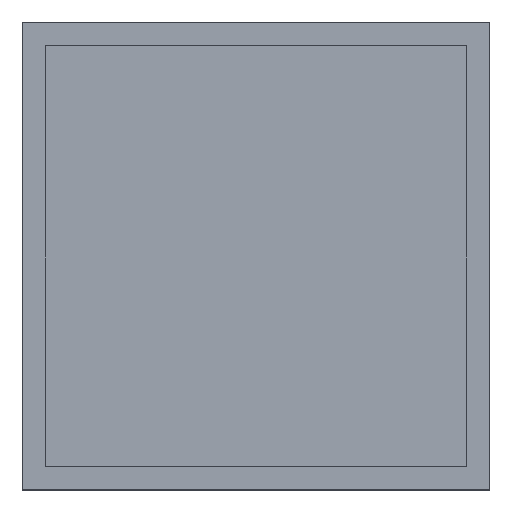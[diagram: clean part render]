
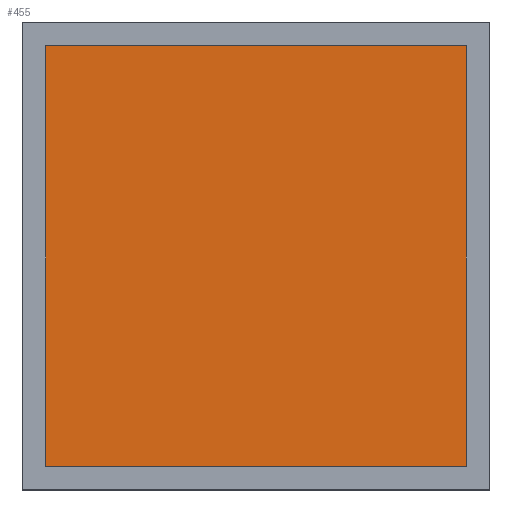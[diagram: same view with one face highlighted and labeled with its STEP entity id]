
A CAD part, top view. The second image highlights one B-rep face of the part: STEP entity #455.
In plain terms, the highlighted planar face has unit normal (0, 0, 1).
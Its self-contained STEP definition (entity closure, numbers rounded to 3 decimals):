
#33=FACE_OUTER_BOUND('',#61,.T.);
#61=EDGE_LOOP('',(#348,#349,#350,#351));
#110=LINE('',#710,#170);
#111=LINE('',#712,#171);
#112=LINE('',#714,#172);
#113=LINE('',#715,#173);
#170=VECTOR('',#587,10.);
#171=VECTOR('',#588,10.);
#172=VECTOR('',#589,10.);
#173=VECTOR('',#590,10.);
#216=VERTEX_POINT('',#708);
#217=VERTEX_POINT('',#709);
#218=VERTEX_POINT('',#711);
#219=VERTEX_POINT('',#713);
#266=EDGE_CURVE('',#216,#217,#110,.T.);
#267=EDGE_CURVE('',#218,#216,#111,.T.);
#268=EDGE_CURVE('',#219,#218,#112,.T.);
#269=EDGE_CURVE('',#217,#219,#113,.T.);
#348=ORIENTED_EDGE('',*,*,#266,.F.);
#349=ORIENTED_EDGE('',*,*,#267,.F.);
#350=ORIENTED_EDGE('',*,*,#268,.F.);
#351=ORIENTED_EDGE('',*,*,#269,.F.);
#427=PLANE('',#506);
#455=ADVANCED_FACE('',(#33),#427,.F.);
#506=AXIS2_PLACEMENT_3D('',#707,#585,#586);
#585=DIRECTION('center_axis',(0.,0.,-1.));
#586=DIRECTION('ref_axis',(-1.,0.,0.));
#587=DIRECTION('',(1.,0.,0.));
#588=DIRECTION('',(0.,1.,0.));
#589=DIRECTION('',(-1.,0.,0.));
#590=DIRECTION('',(0.,-1.,0.));
#707=CARTESIAN_POINT('Origin',(0.,0.,
0.));
#708=CARTESIAN_POINT('',(-267.5,267.5,0.));
#709=CARTESIAN_POINT('',(267.5,267.5,0.));
#710=CARTESIAN_POINT('',(-267.5,267.5,0.));
#711=CARTESIAN_POINT('',(-267.5,-267.5,0.));
#712=CARTESIAN_POINT('',(-267.5,-267.5,0.));
#713=CARTESIAN_POINT('',(267.5,-267.5,0.));
#714=CARTESIAN_POINT('',(267.5,-267.5,0.));
#715=CARTESIAN_POINT('',(267.5,267.5,0.));
